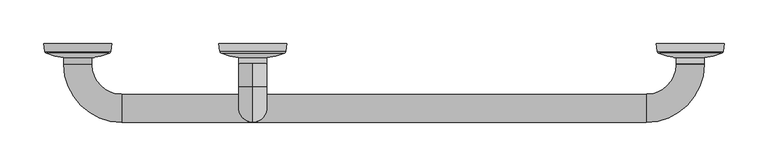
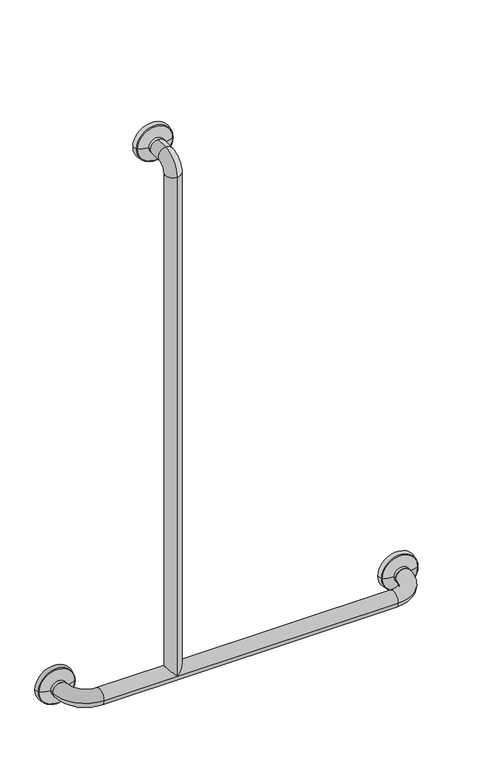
"""IFC4 building model written with IfcOpenShell, lengths in millimetres: proxy geometry, Grab Rail_Metlam_Shower_Offset_Left : 732w x 90d x 1132h (MLR107MKII)."""

from ifc_helpers import new_model, si_unit, point, frame, origin, place, context, project, spatial, polyline, circle_curve, ellipse_curve, trimmed, source, transform, mapped, element, save
from ifc_brep_helpers import plane_surface, cylinder_surface, revolved_surface, advanced_brep


def specialty_equipment_318ee3eb(model_context):
    return source(origin(), model_context, "Body", "AdvancedBrep", [
        advanced_brep(
        [(-690.0, -58.0, 784.0), (-724.0, -24.0, 784.0), (-756.0, -24.0, 784.0), (-690.0, -90.0, 784.0), (-540.0, -90.0, 784.0), (-540.0, -58.0, 784.0), (-90.0, -90.0, 784.0), (-90.0, -58.0, 784.0), (-24.0, -24.0, 784.0), (-56.0, -24.0, 784.0), (-779.0, 0.0, 784.0), (-701.0, 0.0, 784.0), (-702.4013943, -8.7587144, 784.0), (-777.5986057, -8.7587144, 784.0), (-776.2569328, -10.5953367, 784.0), (-703.7430672, -10.5953367, 784.0), (-724.0, -16.0308125, 784.0), (-756.0, -16.0308125, 784.0), (-724.0, -23.0, 784.0), (-756.0, -23.0, 784.0), (-740.0, 0.0, 784.0), (-24.0, -23.0311998, 784.0), (-56.0, -23.0311998, 784.0), (-540.0, -23.0311998, 1900.0), (-540.0, -49.0, 1900.0), (-540.0, -49.0, 1868.0), (-540.0, -23.0311998, 1868.0), (-524.0, -23.0311998, 1884.0), (-556.0, -23.0311998, 1884.0), (-540.0, -58.0, 1859.0), (-540.0, -90.0, 1859.0), (-1.0, 0.0, 784.0), (-79.0, 0.0, 784.0), (-40.0, 0.0, 784.0), (-2.4013943, -8.7899143, 784.0), (-77.5986057, -8.7899143, 784.0), (-24.0, -16.0620123, 784.0), (-56.0, -16.0620123, 784.0), (-76.2569328, -10.6265365, 784.0), (-3.7430672, -10.6265365, 784.0), (-501.0, 0.0, 1884.0), (-579.0, 0.0, 1884.0), (-540.0, 0.0, 1884.0), (-502.4013943, -8.7587144, 1884.0), (-577.5986057, -8.7587144, 1884.0), (-503.7430672, -10.5953367, 1884.0), (-576.2569328, -10.5953367, 1884.0), (-524.0, -16.0308125, 1884.0), (-556.0, -16.0308125, 1884.0)],
        [
            (0, 1, circle_curve(frame((-690.0, -24.0, 784.0), z_axis=(0.0, 0.0, -1.0), x_axis=(-1.0, 0.0, 0.0)), 34.0)),
            (1, 2, circle_curve(frame((-740.0, -24.0, 784.0), z_axis=(0.0, -1.0, 0.0), x_axis=(1.0, 0.0, 0.0)), 16.0)),
            (2, 3, circle_curve(frame((-690.0, -24.0, 784.0), z_axis=(0.0, 0.0, 1.0), x_axis=(-1.0, 0.0, 0.0)), 66.0)),
            (3, 0, circle_curve(frame((-690.0, -74.0, 784.0), z_axis=(-1.0, 0.0, 0.0), x_axis=(0.0, 1.0, 0.0)), 16.0)),
            (0, 3, circle_curve(frame((-690.0, -74.0, 784.0), z_axis=(-1.0, 0.0, 0.0), x_axis=(0.0, 1.0, 0.0)), 16.0)),
            (2, 1, circle_curve(frame((-740.0, -24.0, 784.0), z_axis=(0.0, -1.0, 0.0), x_axis=(1.0, 0.0, 0.0)), 16.0)),
            (3, 4),
            (4, 5, ellipse_curve(frame((-540.0, -74.0, 784.0), z_axis=(-0.7071067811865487, 0.0, -0.7071067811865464), x_axis=(-0.7071067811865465, 0.0, 0.7071067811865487)), 22.627417, 16.0)),
            (5, 0),
            (6, 7, circle_curve(frame((-90.0, -74.0, 784.0), z_axis=(-1.0, 0.0, 0.0), x_axis=(0.0, 1.0, 0.0)), 16.0)),
            (7, 5),
            (5, 4, ellipse_curve(frame((-540.0, -74.0, 784.0), z_axis=(0.7071067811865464, 0.0, -0.7071067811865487), x_axis=(-0.7071067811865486, 0.0, -0.7071067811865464)), 22.627417, 16.0)),
            (4, 6),
            (7, 6, circle_curve(frame((-90.0, -74.0, 784.0), z_axis=(-1.0, 0.0, 0.0), x_axis=(0.0, 1.0, 0.0)), 16.0)),
            (6, 8, circle_curve(frame((-90.0, -24.0, 784.0), z_axis=(0.0, 0.0, 1.0), x_axis=(0.0, -1.0, 0.0)), 66.0)),
            (8, 9, circle_curve(frame((-40.0, -24.0, 784.0), z_axis=(0.0, -1.0, 0.0), x_axis=(-1.0, 0.0, 0.0)), 16.0)),
            (9, 7, circle_curve(frame((-90.0, -24.0, 784.0), z_axis=(0.0, 0.0, -1.0), x_axis=(0.0, -1.0, 0.0)), 34.0)),
            (9, 8, circle_curve(frame((-40.0, -24.0, 784.0), z_axis=(0.0, -1.0, 0.0), x_axis=(-1.0, 0.0, 0.0)), 16.0)),
            (10, 11, circle_curve(frame((-740.0, 0.0, 784.0), z_axis=(0.0, -1.0, 0.0), x_axis=(1.0, 0.0, 0.0)), 39.0)),
            (11, 12),
            (12, 13, circle_curve(frame((-740.0, -8.7587144, 784.0), z_axis=(0.0, 1.0, 0.0), x_axis=(1.0, 0.0, 0.0)), 37.5986057)),
            (13, 10),
            (11, 10, circle_curve(frame((-740.0, 0.0, 784.0), z_axis=(0.0, -1.0, 0.0), x_axis=(1.0, 0.0, 0.0)), 39.0)),
            (13, 12, circle_curve(frame((-740.0, -8.7587144, 784.0), z_axis=(0.0, 1.0, 0.0), x_axis=(1.0, 0.0, 0.0)), 37.5986057)),
            (14, 15, circle_curve(frame((-740.0, -10.5953367, 784.0), z_axis=(0.0, -1.0, 0.0), x_axis=(1.0, 0.0, 0.0)), 36.2569328)),
            (15, 16, circle_curve(frame((-726.9112908, 35.2834961, 784.0), z_axis=(0.0, 0.0, -1.0), x_axis=(-1.0, 0.0, 0.0)), 51.3968275)),
            (16, 17, circle_curve(frame((-740.0, -16.0308125, 784.0), z_axis=(0.0, 1.0, 0.0), x_axis=(1.0, 0.0, 0.0)), 16.0)),
            (17, 14, circle_curve(frame((-753.0887092, 35.2834961, 784.0), z_axis=(0.0, 0.0, -1.0), x_axis=(1.0, 0.0, 0.0)), 51.3968275)),
            (15, 14, circle_curve(frame((-740.0, -10.5953367, 784.0), z_axis=(0.0, -1.0, 0.0), x_axis=(1.0, 0.0, 0.0)), 36.2569328)),
            (17, 16, circle_curve(frame((-740.0, -16.0308125, 784.0), z_axis=(0.0, 1.0, 0.0), x_axis=(1.0, 0.0, 0.0)), 16.0)),
            (16, 18),
            (18, 19, circle_curve(frame((-740.0, -23.0, 784.0), z_axis=(0.0, 1.0, 0.0), x_axis=(1.0, 0.0, 0.0)), 16.0)),
            (19, 17),
            (19, 18, circle_curve(frame((-740.0, -23.0, 784.0), z_axis=(0.0, 1.0, 0.0), x_axis=(1.0, 0.0, 0.0)), 16.0)),
            (10, 20),
            (20, 11),
            (1, 18),
            (19, 2),
            (8, 21),
            (21, 22, circle_curve(frame((-40.0, -23.0311998, 784.0), z_axis=(0.0, -1.0, 0.0), x_axis=(-1.0, 0.0, 0.0)), 16.0)),
            (22, 9),
            (22, 21, circle_curve(frame((-40.0, -23.0311998, 784.0), z_axis=(0.0, -1.0, 0.0), x_axis=(-1.0, 0.0, 0.0)), 16.0)),
            (12, 15, circle_curve(frame((-704.8699959, -8.3637382, 784.0), z_axis=(0.0, 0.0, -1.0), x_axis=(-1.0, 0.0, 0.0)), 2.5)),
            (14, 13, circle_curve(frame((-775.1300041, -8.3637382, 784.0), z_axis=(0.0, 0.0, -1.0), x_axis=(1.0, 0.0, 0.0)), 2.5)),
            (23, 24),
            (24, 25, circle_curve(frame((-540.0, -49.0, 1884.0), z_axis=(0.0, 1.0, 0.0), x_axis=(0.0, 0.0, -1.0)), 16.0)),
            (25, 26),
            (26, 27, circle_curve(frame((-540.0, -23.0311998, 1884.0), z_axis=(0.0, -1.0, 0.0), x_axis=(0.0, 0.0, -1.0)), 16.0)),
            (27, 23, circle_curve(frame((-540.0, -23.0311998, 1884.0), z_axis=(0.0, -1.0, 0.0), x_axis=(0.0, 0.0, -1.0)), 16.0)),
            (23, 28, circle_curve(frame((-540.0, -23.0311998, 1884.0), z_axis=(0.0, -1.0, 0.0), x_axis=(0.0, 0.0, -1.0)), 16.0)),
            (28, 26, circle_curve(frame((-540.0, -23.0311998, 1884.0), z_axis=(0.0, -1.0, 0.0), x_axis=(0.0, 0.0, -1.0)), 16.0)),
            (25, 24, circle_curve(frame((-540.0, -49.0, 1884.0), z_axis=(0.0, 1.0, 0.0), x_axis=(0.0, 0.0, -1.0)), 16.0)),
            (29, 30, circle_curve(frame((-540.0, -74.0, 1859.0), z_axis=(0.0, 0.0, -1.0), x_axis=(0.0, 1.0, 0.0)), 16.0)),
            (30, 4),
            (5, 29),
            (30, 29, circle_curve(frame((-540.0, -74.0, 1859.0), z_axis=(0.0, 0.0, -1.0), x_axis=(0.0, 1.0, 0.0)), 16.0)),
            (31, 32, circle_curve(frame((-40.0, 0.0, 784.0), z_axis=(0.0, 1.0, 0.0), x_axis=(-1.0, 0.0, 0.0)), 39.0)),
            (32, 33),
            (33, 31),
            (32, 31, circle_curve(frame((-40.0, 0.0, 784.0), z_axis=(0.0, 1.0, 0.0), x_axis=(-1.0, 0.0, 0.0)), 39.0)),
            (31, 34),
            (34, 35, circle_curve(frame((-40.0, -8.7899143, 784.0), z_axis=(0.0, 1.0, 0.0), x_axis=(-1.0, 0.0, 0.0)), 37.5986057)),
            (35, 32),
            (35, 34, circle_curve(frame((-40.0, -8.7899143, 784.0), z_axis=(0.0, 1.0, 0.0), x_axis=(-1.0, 0.0, 0.0)), 37.5986057)),
            (36, 37, circle_curve(frame((-40.0, -16.0620123, 784.0), z_axis=(0.0, 1.0, 0.0), x_axis=(-1.0, 0.0, 0.0)), 16.0)),
            (37, 38, circle_curve(frame((-53.0887092, 35.2522963, 784.0), z_axis=(0.0, 0.0, -1.0), x_axis=(-1.0, 0.0, 0.0)), 51.3968275)),
            (38, 39, circle_curve(frame((-40.0, -10.6265365, 784.0), z_axis=(0.0, -1.0, 0.0), x_axis=(-1.0, 0.0, 0.0)), 36.2569328)),
            (39, 36, circle_curve(frame((-26.9112908, 35.2522963, 784.0), z_axis=(0.0, 0.0, -1.0), x_axis=(1.0, 0.0, 0.0)), 51.3968275)),
            (37, 36, circle_curve(frame((-40.0, -16.0620123, 784.0), z_axis=(0.0, 1.0, 0.0), x_axis=(-1.0, 0.0, 0.0)), 16.0)),
            (39, 38, circle_curve(frame((-40.0, -10.6265365, 784.0), z_axis=(0.0, -1.0, 0.0), x_axis=(-1.0, 0.0, 0.0)), 36.2569328)),
            (36, 21),
            (22, 37),
            (34, 39, circle_curve(frame((-4.8699959, -8.394938, 784.0), z_axis=(0.0, 0.0, -1.0), x_axis=(1.0, 0.0, 0.0)), 2.5)),
            (38, 35, circle_curve(frame((-75.1300041, -8.394938, 784.0), z_axis=(0.0, 0.0, -1.0), x_axis=(-1.0, 0.0, 0.0)), 2.5)),
            (24, 30, circle_curve(frame((-540.0, -49.0, 1859.0), z_axis=(1.0, 0.0, 0.0), x_axis=(0.0, 0.0, 1.0)), 41.0)),
            (29, 25, circle_curve(frame((-540.0, -49.0, 1859.0), z_axis=(-1.0, 0.0, 0.0), x_axis=(0.0, 0.0, 1.0)), 9.0)),
            (40, 41, circle_curve(frame((-540.0, 0.0, 1884.0), z_axis=(0.0, 1.0, 0.0), x_axis=(-1.0, 0.0, 0.0)), 39.0)),
            (41, 42),
            (42, 40),
            (41, 40, circle_curve(frame((-540.0, 0.0, 1884.0), z_axis=(0.0, 1.0, 0.0), x_axis=(-1.0, 0.0, 0.0)), 39.0)),
            (40, 43),
            (43, 44, circle_curve(frame((-540.0, -8.7587144, 1884.0), z_axis=(0.0, 1.0, 0.0), x_axis=(-1.0, 0.0, 0.0)), 37.5986057)),
            (44, 41),
            (44, 43, circle_curve(frame((-540.0, -8.7587144, 1884.0), z_axis=(0.0, 1.0, 0.0), x_axis=(-1.0, 0.0, 0.0)), 37.5986057)),
            (43, 45, circle_curve(frame((-504.8699959, -8.3637382, 1884.0), z_axis=(0.0, 0.0, -1.0), x_axis=(1.0, 0.0, 0.0)), 2.5)),
            (45, 46, circle_curve(frame((-540.0, -10.5953367, 1884.0), z_axis=(0.0, 1.0, 0.0), x_axis=(-1.0, 0.0, 0.0)), 36.2569328)),
            (46, 44, circle_curve(frame((-575.1300041, -8.3637382, 1884.0), z_axis=(0.0, 0.0, -1.0), x_axis=(-1.0, 0.0, 0.0)), 2.5)),
            (46, 45, circle_curve(frame((-540.0, -10.5953367, 1884.0), z_axis=(0.0, 1.0, 0.0), x_axis=(-1.0, 0.0, 0.0)), 36.2569328)),
            (45, 47, circle_curve(frame((-526.9112908, 35.2834961, 1884.0), z_axis=(0.0, 0.0, -1.0), x_axis=(1.0, 0.0, 0.0)), 51.3968275)),
            (47, 48, circle_curve(frame((-540.0, -16.0308125, 1884.0), z_axis=(0.0, 1.0, 0.0), x_axis=(-1.0, 0.0, 0.0)), 16.0)),
            (48, 46, circle_curve(frame((-553.0887092, 35.2834961, 1884.0), z_axis=(0.0, 0.0, -1.0), x_axis=(-1.0, 0.0, 0.0)), 51.3968275)),
            (48, 47, circle_curve(frame((-540.0, -16.0308125, 1884.0), z_axis=(0.0, 1.0, 0.0), x_axis=(-1.0, 0.0, 0.0)), 16.0)),
            (47, 27),
            (28, 48),
        ],
        [
            revolved_surface(trimmed(ellipse_curve(frame((-740.0, -24.0, 784.0), z_axis=(0.0, 1.0, 0.0), x_axis=(1.0, 0.0, 0.0)), 16.0, 16.0), [point((-756.0, -24.0, 784.0))], [point((-724.0, -24.0, 784.0))], True, "CARTESIAN"), (-690.0, -24.0, 784.0), (0.0, 0.0, 1.0)),
            revolved_surface(trimmed(ellipse_curve(frame((-740.0, -24.0, 784.0), z_axis=(0.0, 1.0, 0.0), x_axis=(1.0, 0.0, 0.0)), 16.0, 16.0), [point((-724.0, -24.0, 784.0))], [point((-756.0, -24.0, 784.0))], True, "CARTESIAN"), (-690.0, -24.0, 784.0), (0.0, 0.0, 1.0)),
            cylinder_surface(frame((-690.0, -74.0, 784.0), z_axis=(-1.0, 0.0, 0.0), x_axis=(0.0, 1.0, 0.0)), 16.0),
            revolved_surface(trimmed(ellipse_curve(frame((-90.0, -74.0, 784.0), z_axis=(-1.0, 0.0, 0.0), x_axis=(0.0, 1.0, 0.0)), 16.0, 16.0), [point((-90.0, -90.0, 784.0))], [point((-90.0, -58.0, 784.0))], True, "CARTESIAN"), (-90.0, -24.0, 784.0), (0.0, 0.0, 1.0)),
            revolved_surface(trimmed(ellipse_curve(frame((-90.0, -74.0, 784.0), z_axis=(-1.0, 0.0, 0.0), x_axis=(0.0, 1.0, 0.0)), 16.0, 16.0), [point((-90.0, -58.0, 784.0))], [point((-90.0, -90.0, 784.0))], True, "CARTESIAN"), (-90.0, -24.0, 784.0), (0.0, 0.0, 1.0)),
            revolved_surface(polyline([(-702.4013943, -8.7587144, 784.0), (-701.0, 0.0, 784.0)]), (-740.0, -10.0, 784.0), (0.0, 1.0, 0.0)),
            revolved_surface(trimmed(ellipse_curve(frame((-726.9112908, 35.2834961, 784.0), z_axis=(0.0, 0.0, 1.0), x_axis=(-1.0, 0.0, 0.0)), 51.3968275, 51.3968275), [point((-724.0, -16.0308125, 784.0))], [point((-703.7430672, -10.5953367, 784.0))], True, "CARTESIAN"), (-740.0, -10.0, 784.0), (0.0, 1.0, 0.0)),
            cylinder_surface(frame((-740.0, -10.0, 784.0), z_axis=(0.0, 1.0, 0.0), x_axis=(1.0, 0.0, 0.0)), 16.0),
            plane_surface(frame((-740.0, 0.0, 784.0), z_axis=(0.0, 1.0, 0.0), x_axis=(1.0, 0.0, 0.0))),
            cylinder_surface(frame((-740.0, -23.0, 784.0), z_axis=(0.0, 1.0, 0.0), x_axis=(1.0, 0.0, 0.0)), 16.0),
            cylinder_surface(frame((-40.0, -24.0, 784.0), z_axis=(0.0, -1.0, 0.0), x_axis=(-1.0, 0.0, 0.0)), 16.0),
            revolved_surface(trimmed(ellipse_curve(frame((-704.8699959, -8.3637382, 784.0), z_axis=(0.0, 0.0, 1.0), x_axis=(-1.0, 0.0, 0.0)), 2.5, 2.5), [point((-703.7430672, -10.5953367, 784.0))], [point((-702.4013943, -8.7587144, 784.0))], True, "CARTESIAN"), (-740.0, -10.0, 784.0), (0.0, 1.0, 0.0)),
            cylinder_surface(frame((-540.0, -23.0311998, 1884.0), z_axis=(0.0, 1.0, 0.0), x_axis=(0.0, 0.0, -1.0)), 16.0),
            cylinder_surface(frame((-540.0, -74.0, 1859.0), z_axis=(0.0, 0.0, 1.0), x_axis=(0.0, 1.0, 0.0)), 16.0),
            plane_surface(frame((-40.0, 0.0, 784.0), z_axis=(0.0, 1.0, 0.0), x_axis=(-1.0, 0.0, 0.0))),
            revolved_surface(polyline([(-79.0, 0.0, 784.0), (-77.5986057, -8.7899143, 784.0)]), (-40.0, -10.0311998, 784.0), (0.0, -1.0, 0.0)),
            revolved_surface(trimmed(ellipse_curve(frame((-53.0887092, 35.2522963, 784.0), z_axis=(0.0, 0.0, 1.0), x_axis=(-1.0, 0.0, 0.0)), 51.3968275, 51.3968275), [point((-76.2569328, -10.6265365, 784.0))], [point((-56.0, -16.0620123, 784.0))], True, "CARTESIAN"), (-40.0, -10.0311998, 784.0), (0.0, -1.0, 0.0)),
            cylinder_surface(frame((-40.0, -10.0311998, 784.0), z_axis=(0.0, -1.0, 0.0), x_axis=(-1.0, 0.0, 0.0)), 16.0),
            revolved_surface(trimmed(ellipse_curve(frame((-75.1300041, -8.394938, 784.0), z_axis=(0.0, 0.0, 1.0), x_axis=(-1.0, 0.0, 0.0)), 2.5, 2.5), [point((-77.5986057, -8.7899143, 784.0))], [point((-76.2569328, -10.6265365, 784.0))], True, "CARTESIAN"), (-40.0, -10.0311998, 784.0), (0.0, -1.0, 0.0)),
            revolved_surface(trimmed(ellipse_curve(frame((-540.0, -49.0, 1884.0), z_axis=(0.0, 1.0, 0.0), x_axis=(0.0, 0.0, -1.0)), 16.0, 16.0), [point((-540.0, -49.0, 1900.0))], [point((-540.0, -49.0, 1868.0))], True, "CARTESIAN"), (-540.0, -49.0, 1859.0), (1.0, 0.0, 0.0)),
            revolved_surface(trimmed(ellipse_curve(frame((-540.0, -49.0, 1884.0), z_axis=(0.0, 1.0, 0.0), x_axis=(0.0, 0.0, -1.0)), 16.0, 16.0), [point((-540.0, -49.0, 1868.0))], [point((-540.0, -49.0, 1900.0))], True, "CARTESIAN"), (-540.0, -49.0, 1859.0), (1.0, 0.0, 0.0)),
            plane_surface(frame((-540.0, 0.0, 1884.0), z_axis=(0.0, 1.0, 0.0), x_axis=(-1.0, 0.0, 0.0))),
            revolved_surface(polyline([(-579.0, 0.0, 1884.0), (-577.5986057, -8.7587144, 1884.0)]), (-540.0, -10.0311998, 1884.0), (0.0, -1.0, 0.0)),
            revolved_surface(trimmed(ellipse_curve(frame((-575.1300041, -8.3637382, 1884.0), z_axis=(0.0, 0.0, 1.0), x_axis=(-1.0, 0.0, 0.0)), 2.5, 2.5), [point((-577.5986057, -8.7587144, 1884.0))], [point((-576.2569328, -10.5953367, 1884.0))], True, "CARTESIAN"), (-540.0, -10.0311998, 1884.0), (0.0, -1.0, 0.0)),
            revolved_surface(trimmed(ellipse_curve(frame((-553.0887092, 35.2834961, 1884.0), z_axis=(0.0, 0.0, 1.0), x_axis=(-1.0, 0.0, 0.0)), 51.3968275, 51.3968275), [point((-576.2569328, -10.5953367, 1884.0))], [point((-556.0, -16.0308125, 1884.0))], True, "CARTESIAN"), (-540.0, -10.0311998, 1884.0), (0.0, -1.0, 0.0)),
            cylinder_surface(frame((-540.0, -10.0311998, 1884.0), z_axis=(0.0, -1.0, 0.0), x_axis=(-1.0, 0.0, 0.0)), 16.0),
        ],
        [
            (0, [[1, 2, 3, 4]]),
            (1, [[-1, 5, -3, 6]]),
            (2, [[-4, 7, 8, 9]]),
            (2, [[10, 11, 12, 13]]),
            (2, [[-5, -9, -11, 14, -13, -7]]),
            (3, [[-10, 15, 16, 17]]),
            (4, [[-14, -17, 18, -15]]),
            (5, [[19, 20, 21, 22]]),
            (5, [[-20, 23, -22, 24]]),
            (6, [[25, 26, 27, 28]]),
            (6, [[-26, 29, -28, 30]]),
            (7, [[-27, 31, 32, 33]]),
            (7, [[-30, -33, 34, -31]]),
            (8, [[-19, 35, 36]]),
            (8, [[-23, -36, -35]]),
            (9, [[-2, 37, -34, 38]]),
            (9, [[-6, -38, -32, -37]]),
            (10, [[-16, 39, 40, 41]]),
            (10, [[-18, -41, 42, -39]]),
            (11, [[-21, 43, -25, 44]]),
            (11, [[-24, -44, -29, -43]]),
            (12, [[45, 46, 47, 48, 49]]),
            (12, [[-45, 50, 51, -47, 52]]),
            (13, [[53, 54, -12, 55]]),
            (13, [[-54, 56, -55, -8]]),
            (14, [[57, 58, 59]]),
            (14, [[-58, 60, -59]]),
            (15, [[-57, 61, 62, 63]]),
            (15, [[-60, -63, 64, -61]]),
            (16, [[65, 66, 67, 68]]),
            (16, [[-66, 69, -68, 70]]),
            (17, [[-65, 71, -42, 72]]),
            (17, [[-69, -72, -40, -71]]),
            (18, [[-62, 73, -67, 74]]),
            (18, [[-64, -74, -70, -73]]),
            (19, [[-46, 75, -53, 76]]),
            (20, [[-52, -76, -56, -75]]),
            (21, [[77, 78, 79]]),
            (21, [[-78, 80, -79]]),
            (22, [[-77, 81, 82, 83]]),
            (22, [[-80, -83, 84, -81]]),
            (23, [[-82, 85, 86, 87]]),
            (23, [[-84, -87, 88, -85]]),
            (24, [[-86, 89, 90, 91]]),
            (24, [[-88, -91, 92, -89]]),
            (25, [[-90, 93, -48, -51, 94]]),
            (25, [[-92, -94, -50, -49, -93]]),
        ],
    ),
    ])


if __name__ == "__main__":
    model = new_model("IFC4")
    model_context = context("Model", 3, world=origin())
    ifc_project = project(units=[si_unit("LENGTHUNIT", "METRE", prefix="MILLI")], contexts=[model_context])
    site = spatial("IfcSite", under=ifc_project)
    building = spatial("IfcBuilding", under=site)
    placement = place(None, origin())
    specialty_equipment_shape = specialty_equipment_318ee3eb(model_context)
    element("IfcBuildingElementProxy", 1, Name="Grab Rail_Metlam_Shower_Offset_Left : 732w x 90d x 1132h (MLR107MKII)", ObjectType="Grab Rail_Metlam_Shower_Offset_Left : 732w x 90d x 1132h (MLR107MKII)", at=placement, inside=building, context=model_context, shape_type="MappedRepresentation", body=[
        mapped(specialty_equipment_shape, transform((0.0, 0.0, 0.0), x_axis=(1.0, 0.0, 0.0), y_axis=(0.0, 1.0, 0.0), z_axis=(0.0, 0.0, 1.0))),
    ])
    save(model, "model.ifc")
